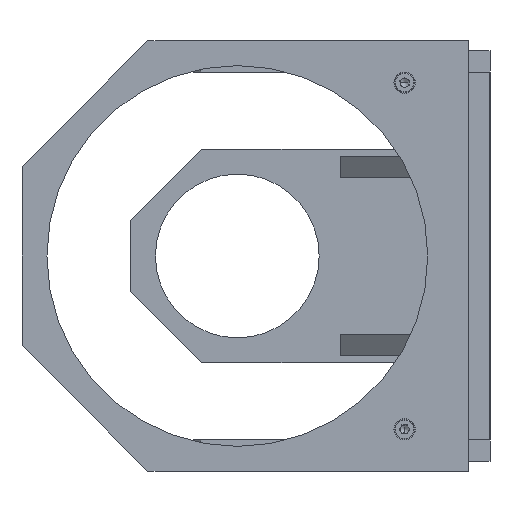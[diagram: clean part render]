
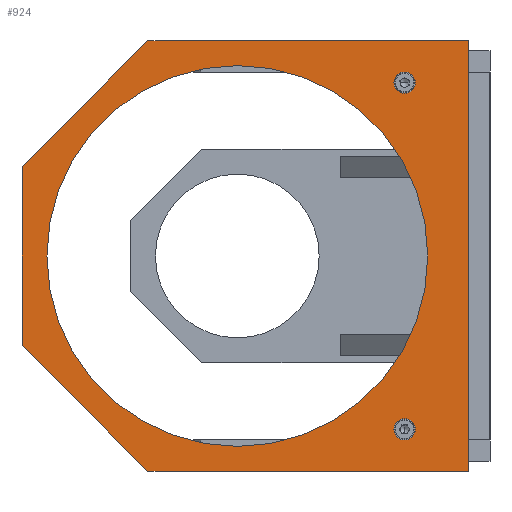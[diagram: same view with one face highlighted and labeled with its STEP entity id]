
A CAD part, left-side view. The second image highlights one B-rep face of the part: STEP entity #924.
In plain terms, the highlighted planar face has unit normal (-1, 0, 0) as drawn and (0, 0, 1) by its records, which use the part's own axes.
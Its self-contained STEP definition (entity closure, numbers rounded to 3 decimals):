
#924=ADVANCED_FACE('NONE',(#1804,#1805,#1806,#1807),#1808,.F.);
#1804=FACE_OUTER_BOUND('',#2734,.T.);
#1805=FACE_BOUND('',#2735,.T.);
#1806=FACE_BOUND('',#2736,.T.);
#1807=FACE_BOUND('',#2737,.T.);
#1808=PLANE('',#2738);
#2734=EDGE_LOOP('',(#4442,#4443,#4444,#4445,#4446,#4447));
#2735=EDGE_LOOP('',(#4448,#4449));
#2736=EDGE_LOOP('',(#4450,#4451));
#2737=EDGE_LOOP('',(#4452,#4453));
#2738=AXIS2_PLACEMENT_3D('',#4454,#4455,#4456);
#4442=ORIENTED_EDGE('',*,*,#6056,.T.);
#4443=ORIENTED_EDGE('',*,*,#6062,.T.);
#4444=ORIENTED_EDGE('',*,*,#6069,.T.);
#4445=ORIENTED_EDGE('',*,*,#6074,.T.);
#4446=ORIENTED_EDGE('',*,*,#6078,.T.);
#4447=ORIENTED_EDGE('',*,*,#6082,.T.);
#4448=ORIENTED_EDGE('',*,*,#6084,.F.);
#4449=ORIENTED_EDGE('',*,*,#6028,.F.);
#4450=ORIENTED_EDGE('',*,*,#6085,.F.);
#4451=ORIENTED_EDGE('',*,*,#6023,.F.);
#4452=ORIENTED_EDGE('',*,*,#6086,.F.);
#4453=ORIENTED_EDGE('',*,*,#6034,.F.);
#4454=CARTESIAN_POINT('',(0.0,0.0,6.0));
#4455=DIRECTION('',(0.0,0.0,-1.0));
#4456=DIRECTION('',(0.0,-1.0,0.0));
#6023=EDGE_CURVE('NONE',#7182,#7184,#7185,.T.);
#6028=EDGE_CURVE('NONE',#7191,#7193,#7194,.T.);
#6034=EDGE_CURVE('NONE',#7201,#7203,#7204,.T.);
#6056=EDGE_CURVE('NONE',#7237,#7235,#7238,.T.);
#6062=EDGE_CURVE('NONE',#7235,#7244,#7246,.T.);
#6069=EDGE_CURVE('NONE',#7244,#7253,#7255,.T.);
#6074=EDGE_CURVE('NONE',#7253,#7260,#7262,.T.);
#6078=EDGE_CURVE('NONE',#7260,#7266,#7268,.T.);
#6082=EDGE_CURVE('NONE',#7266,#7237,#7272,.T.);
#6084=EDGE_CURVE('NONE',#7193,#7191,#7274,.T.);
#6085=EDGE_CURVE('NONE',#7184,#7182,#7275,.T.);
#6086=EDGE_CURVE('NONE',#7203,#7201,#7276,.T.);
#7182=VERTEX_POINT('NONE',#8747);
#7184=VERTEX_POINT('NONE',#8750);
#7185=CIRCLE('',#8751,3.0);
#7191=VERTEX_POINT('NONE',#8758);
#7193=VERTEX_POINT('NONE',#8761);
#7194=CIRCLE('',#8762,3.0);
#7201=VERTEX_POINT('NONE',#8771);
#7203=VERTEX_POINT('NONE',#8774);
#7204=CIRCLE('',#8775,53.5);
#7235=VERTEX_POINT('NONE',#8813);
#7237=VERTEX_POINT('NONE',#8816);
#7238=LINE('',#8817,#8818);
#7244=VERTEX_POINT('NONE',#8826);
#7246=LINE('',#8829,#8830);
#7253=VERTEX_POINT('NONE',#8838);
#7255=LINE('',#8841,#8842);
#7260=VERTEX_POINT('NONE',#8848);
#7262=LINE('',#8851,#8852);
#7266=VERTEX_POINT('NONE',#8857);
#7268=LINE('',#8860,#8861);
#7272=LINE('',#8866,#8867);
#7274=CIRCLE('',#8869,3.0);
#7275=CIRCLE('',#8870,3.0);
#7276=CIRCLE('',#8871,53.5);
#8747=CARTESIAN_POINT('',(45.7,18.0,6.0));
#8750=CARTESIAN_POINT('',(51.7,18.0,6.0));
#8751=AXIS2_PLACEMENT_3D('',#10428,#10429,#10430);
#8758=CARTESIAN_POINT('',(-51.7,18.0,6.0));
#8761=CARTESIAN_POINT('',(-45.7,18.0,6.0));
#8762=AXIS2_PLACEMENT_3D('',#10436,#10437,#10438);
#8771=CARTESIAN_POINT('',(-53.5,65.0,6.0));
#8774=CARTESIAN_POINT('',(53.5,65.0,6.0));
#8775=AXIS2_PLACEMENT_3D('',#10445,#10446,#10447);
#8813=CARTESIAN_POINT('',(-60.5,0.0,6.0));
#8816=CARTESIAN_POINT('',(-60.5,90.1,6.0));
#8817=CARTESIAN_POINT('',(-60.5,0.0,6.0));
#8818=VECTOR('',#10480,1000.0);
#8826=CARTESIAN_POINT('',(60.5,0.,6.0));
#8829=CARTESIAN_POINT('',(-60.5,0.0,6.0));
#8830=VECTOR('',#10487,1000.0);
#8838=CARTESIAN_POINT('',(60.5,90.1,6.0));
#8841=CARTESIAN_POINT('',(60.5,90.1,6.0));
#8842=VECTOR('',#10499,1000.0);
#8848=CARTESIAN_POINT('',(25.1,125.5,6.0));
#8851=CARTESIAN_POINT('',(25.1,125.5,6.0));
#8852=VECTOR('',#10505,1000.0);
#8857=CARTESIAN_POINT('',(-25.1,125.5,6.0));
#8860=CARTESIAN_POINT('',(-25.1,125.5,6.0));
#8861=VECTOR('',#10508,1000.0);
#8866=CARTESIAN_POINT('',(-60.5,90.1,6.0));
#8867=VECTOR('',#10513,1000.0);
#8869=AXIS2_PLACEMENT_3D('',#10514,#10515,#10516);
#8870=AXIS2_PLACEMENT_3D('',#10517,#10518,#10519);
#8871=AXIS2_PLACEMENT_3D('',#10520,#10521,#10522);
#10428=CARTESIAN_POINT('',(48.7,18.0,6.0));
#10429=DIRECTION('',(0.0,0.0,1.0));
#10430=DIRECTION('',(1.0,0.0,0.0));
#10436=CARTESIAN_POINT('',(-48.7,18.0,6.0));
#10437=DIRECTION('',(0.0,0.0,1.0));
#10438=DIRECTION('',(1.0,0.0,0.0));
#10445=CARTESIAN_POINT('',(0.0,65.0,6.0));
#10446=DIRECTION('',(0.0,0.0,1.0));
#10447=DIRECTION('',(1.0,0.0,0.0));
#10480=DIRECTION('',(0.0,-1.0,0.0));
#10487=DIRECTION('',(1.0,0.,0.0));
#10499=DIRECTION('',(0.,1.0,0.0));
#10505=DIRECTION('',(-0.707,0.707,0.0));
#10508=DIRECTION('',(-1.0,0.0,0.0));
#10513=DIRECTION('',(-0.707,-0.707,0.0));
#10514=CARTESIAN_POINT('',(-48.7,18.0,6.0));
#10515=DIRECTION('',(0.0,0.0,1.0));
#10516=DIRECTION('',(1.0,0.0,0.0));
#10517=CARTESIAN_POINT('',(48.7,18.0,6.0));
#10518=DIRECTION('',(0.0,0.0,1.0));
#10519=DIRECTION('',(1.0,0.0,0.0));
#10520=CARTESIAN_POINT('',(0.0,65.0,6.0));
#10521=DIRECTION('',(0.0,0.0,1.0));
#10522=DIRECTION('',(1.0,0.0,0.0));
